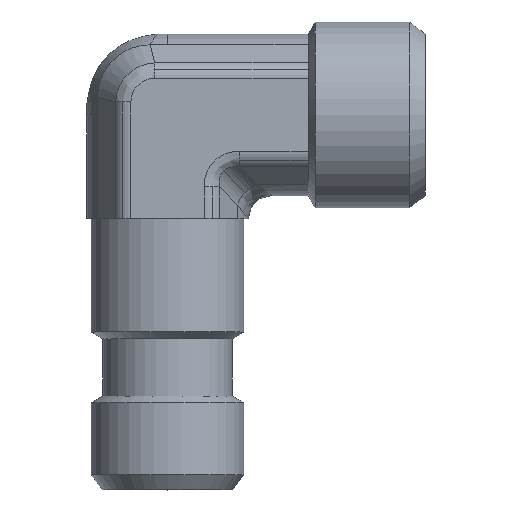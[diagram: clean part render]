
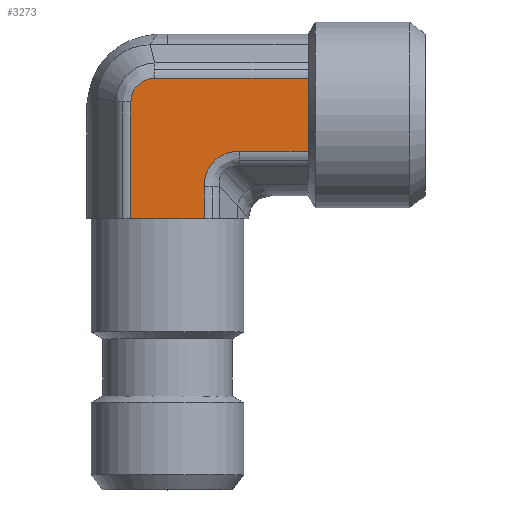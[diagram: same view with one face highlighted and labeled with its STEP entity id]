
A CAD part, top view. The second image highlights one B-rep face of the part: STEP entity #3273.
In plain terms, the highlighted planar face has unit normal (0, 0, 1) as drawn and (0, -1, 0) by its records, which use the part's own axes.
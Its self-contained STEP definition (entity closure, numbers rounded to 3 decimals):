
#319=CARTESIAN_POINT('',(1.649,-6.9,3.118));
#320=VERTEX_POINT('',#319);
#328=CARTESIAN_POINT('',(4.35,-6.9,3.118));
#329=VERTEX_POINT('',#328);
#330=CARTESIAN_POINT('',(1.649,-6.9,3.118));
#331=DIRECTION('',(1.0,0.0,0.0));
#332=VECTOR('',#331,2.701);
#333=LINE('',#330,#332);
#334=EDGE_CURVE('',#320,#329,#333,.T.);
#443=CARTESIAN_POINT('',(-7.618,-6.9,-1.091));
#444=VERTEX_POINT('',#443);
#452=CARTESIAN_POINT('',(-7.618,-6.9,12.0));
#453=VERTEX_POINT('',#452);
#454=CARTESIAN_POINT('',(-7.618,-6.9,-1.091));
#455=DIRECTION('',(0.0,0.0,1.0));
#456=VECTOR('',#455,13.091);
#457=LINE('',#454,#456);
#458=EDGE_CURVE('',#444,#453,#457,.T.);
#1933=CARTESIAN_POINT('',(-4.5,-6.9,12.0));
#1934=VERTEX_POINT('',#1933);
#2064=CARTESIAN_POINT('',(4.35,-6.9,-3.118));
#2065=VERTEX_POINT('',#2064);
#2066=CARTESIAN_POINT('',(4.35,-6.9,-3.118));
#2067=DIRECTION('',(0.0,0.0,1.0));
#2068=VECTOR('',#2067,6.235);
#2069=LINE('',#2066,#2068);
#2070=EDGE_CURVE('',#2065,#329,#2069,.T.);
#2456=CARTESIAN_POINT('',(-4.5,-6.9,12.0));
#2457=DIRECTION('',(-1.0,0.0,0.0));
#2458=VECTOR('',#2457,3.118);
#2459=LINE('',#2456,#2458);
#2460=EDGE_CURVE('',#1934,#453,#2459,.T.);
#2523=CARTESIAN_POINT('',(-1.382,-6.9,12.0));
#2524=VERTEX_POINT('',#2523);
#2525=CARTESIAN_POINT('',(-1.382,-6.9,12.0));
#2526=DIRECTION('',(-1.0,0.0,0.0));
#2527=VECTOR('',#2526,3.118);
#2528=LINE('',#2525,#2527);
#2529=EDGE_CURVE('',#2524,#1934,#2528,.T.);
#2958=CARTESIAN_POINT('',(-5.591,-6.9,-3.118));
#2959=VERTEX_POINT('',#2958);
#2967=CARTESIAN_POINT('',(-7.618,-6.9,-1.091));
#2968=CARTESIAN_POINT('',(-7.618,-6.9,-1.223));
#2969=CARTESIAN_POINT('',(-7.605,-6.9,-1.356));
#2970=CARTESIAN_POINT('',(-7.536,-6.9,-1.695));
#2971=CARTESIAN_POINT('',(-7.462,-6.9,-1.896));
#2972=CARTESIAN_POINT('',(-7.191,-6.9,-2.378));
#2973=CARTESIAN_POINT('',(-6.949,-6.9,-2.631));
#2974=CARTESIAN_POINT('',(-6.339,-6.9,-3.011));
#2975=CARTESIAN_POINT('',(-5.965,-6.9,-3.118));
#2976=CARTESIAN_POINT('',(-5.591,-6.9,-3.118));
#2977=B_SPLINE_CURVE_WITH_KNOTS('',3,(#2967,#2968,#2969,#2970,#2971,#2972,#2973,#2974,#2975,#2976),.UNSPECIFIED.,.F.,.U.,(4,2,2,2,4),(-3.166,-2.771,-2.137,-1.124,0.0),.UNSPECIFIED.);
#2978=EDGE_CURVE('',#2959,#444,#2977,.F.);
#3005=CARTESIAN_POINT('',(4.35,-6.9,-3.118));
#3006=DIRECTION('',(-1.0,0.0,0.0));
#3007=VECTOR('',#3006,9.941);
#3008=LINE('',#3005,#3007);
#3009=EDGE_CURVE('',#2065,#2959,#3008,.T.);
#3141=CARTESIAN_POINT('',(-1.382,-6.9,6.149));
#3142=VERTEX_POINT('',#3141);
#3143=CARTESIAN_POINT('',(-1.382,-6.9,12.0));
#3144=DIRECTION('',(0.0,0.0,-1.0));
#3145=VECTOR('',#3144,5.851);
#3146=LINE('',#3143,#3145);
#3147=EDGE_CURVE('',#2524,#3142,#3146,.T.);
#3230=CARTESIAN_POINT('',(2.659,-6.9,7.159));
#3231=DIRECTION('',(0.,-1.,0.));
#3232=DIRECTION('',(-0.707,0.,-0.707));
#3233=AXIS2_PLACEMENT_3D('',#3230,#3231,#3232);
#3234=ELLIPSE('',#3233,4.518,3.5);
#3235=EDGE_CURVE('',#3142,#320,#3234,.T.);
#3257=CARTESIAN_POINT('',(-4.5,-6.9,-3.175));
#3258=DIRECTION('',(0.0,-1.0,0.0));
#3259=DIRECTION('',(0.0,0.0,-1.0));
#3260=AXIS2_PLACEMENT_3D('',#3257,#3258,#3259);
#3261=PLANE('',#3260);
#3262=ORIENTED_EDGE('',*,*,#2070,.T.);
#3263=ORIENTED_EDGE('',*,*,#334,.F.);
#3264=ORIENTED_EDGE('',*,*,#3235,.F.);
#3265=ORIENTED_EDGE('',*,*,#3147,.F.);
#3266=ORIENTED_EDGE('',*,*,#2529,.T.);
#3267=ORIENTED_EDGE('',*,*,#2460,.T.);
#3268=ORIENTED_EDGE('',*,*,#458,.F.);
#3269=ORIENTED_EDGE('',*,*,#2978,.F.);
#3270=ORIENTED_EDGE('',*,*,#3009,.F.);
#3271=EDGE_LOOP('',(#3262,#3263,#3264,#3265,#3266,#3267,#3268,#3269,#3270));
#3272=FACE_OUTER_BOUND('',#3271,.T.);
#3273=ADVANCED_FACE('',(#3272),#3261,.T.);
